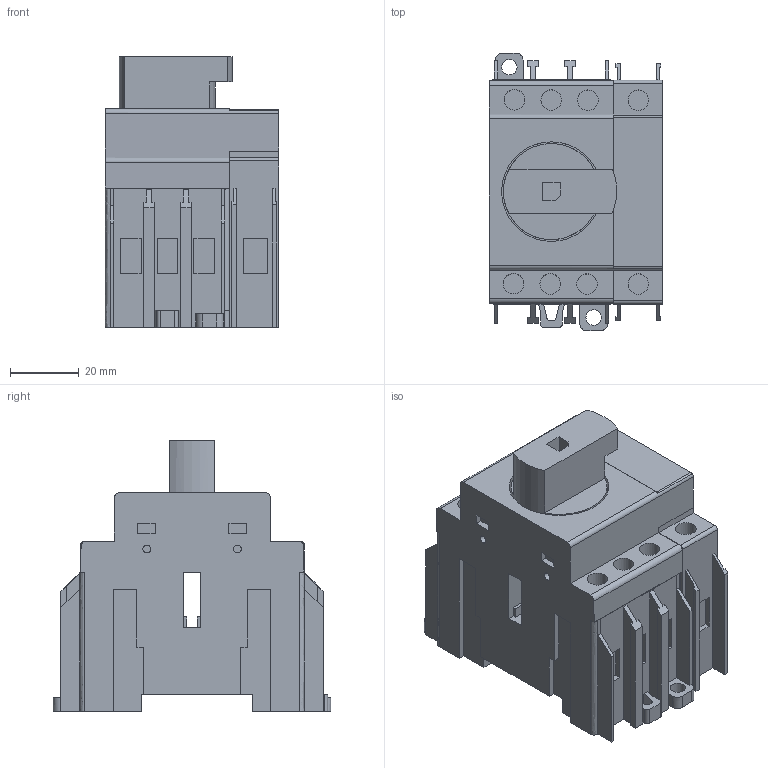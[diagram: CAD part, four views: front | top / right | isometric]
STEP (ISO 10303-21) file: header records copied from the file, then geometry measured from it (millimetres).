
FILE_DESCRIPTION (( 'STEP AP203' ), '1' );
FILE_NAME ('OptiSwitch DI-16-63-4 (m=0,16羱).STEP', '2023-02-21T22:29:40', ( '砐錪賧瘔蠈錪' ), ( '' ), 'SwSTEP 2.0', 'SolidWorks 2018', '' );
FILE_SCHEMA (( 'CONFIG_CONTROL_DESIGN' ));
Length unit declared in the file: millimetre
Products named in the file (1): OptiSwitch DI-16-63-4 (m=0,16羱)
Bounding box: 50.72 x 80.96 x 78.9 mm (x, y, z)
Volume: 175321.6 mm3; surface area: 41885 mm2
Topology: 1 solids, 5 shells, 390 faces, 1041 edges, 690 vertices
Faces by surface type: plane 347, cylinder 23, bspline 20
Full cylindrical faces by diameter (mm): 4.5 x2, 6 x8, 7.154 x2, 28 x1, 29.048 x1
Entity records: 12019 total; most frequent: CARTESIAN_POINT 2432, ORIENTED_EDGE 2044, DIRECTION 1770, EDGE_CURVE 1022, LINE 920, VECTOR 920, VERTEX_POINT 689, EDGE_LOOP 445
